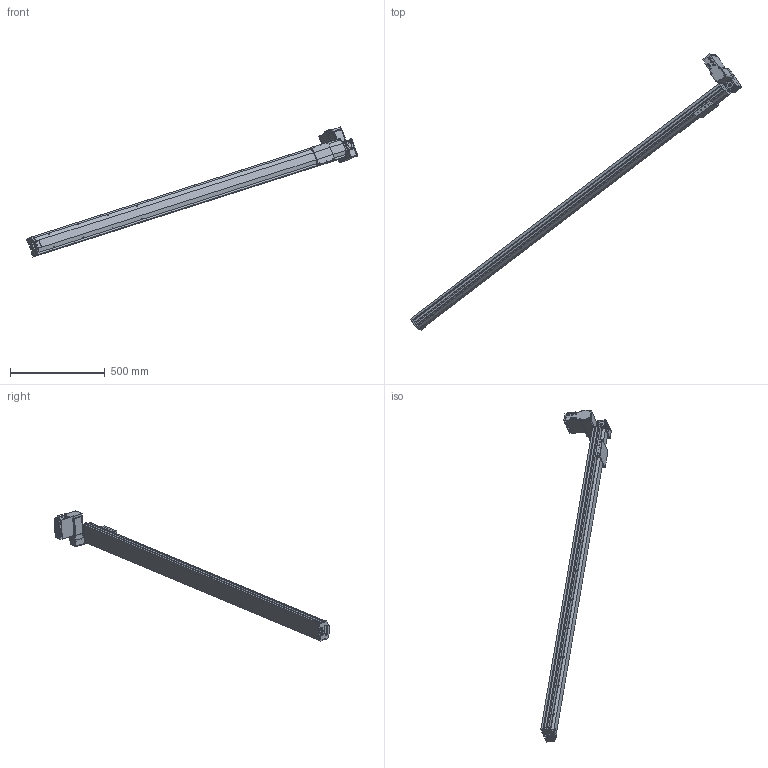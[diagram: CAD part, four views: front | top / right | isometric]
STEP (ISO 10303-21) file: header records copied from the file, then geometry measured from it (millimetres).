
FILE_DESCRIPTION (( 'STEP AP203' ), '1' );
FILE_NAME ('S10 CBH LU S2100.STEP', '2012-10-01T07:05:27', ( '' ), ( '' ), 'SwSTEP 2.0', 'SolidWorks 2010', '' );
FILE_SCHEMA (( 'CONFIG_CONTROL_DESIGN' ));
Length unit declared in the file: millimetre
Products named in the file (14): Plaque racord_Default; renvoi LH_Default; palette tbh; embout; MOTEUR GMI 61 ; S10 CBH LU S2100; plaque de bout s10_Default; cache t皻e axe_Default; cache t皻e_Default; Vis M5 L16-2_Default_1; vis M5 L12_Default; Cvis M5 L30_Default; vis M5 L5_Default; axe 2100
Assembly tree (24 placements, depth 2):
  S10 CBH LU S2100
    vis M5 L5_Default  x4
    vis M5 L12_Default  x4
    embout
    axe 2100
    Cvis M5 L30_Default  x2
    plaque de bout s10_Default
    cache t皻e axe_Default
    cache t皻e_Default  x2
    Vis M5 L16-2_Default_1  x4
    renvoi LH_Default
    MOTEUR GMI 61 
    Plaque racord_Default
    palette tbh
Bounding box: 1746.59 x 1454.41 x 685.16 mm (x, y, z)
Volume: 12052836.9 mm3; surface area: 1197581.8 mm2
Topology: 24 solids, 24 shells, 1097 faces, 2674 edges, 1658 vertices
Faces by surface type: plane 542, cylinder 406, cone 102, bspline 40, torus 7
Entity records: 27739 total; most frequent: CARTESIAN_POINT 5188, DIRECTION 4461, ORIENTED_EDGE 4164, EDGE_CURVE 2082, AXIS2_PLACEMENT_3D 1589, VERTEX_POINT 1346, VECTOR 1283, LINE 1283
